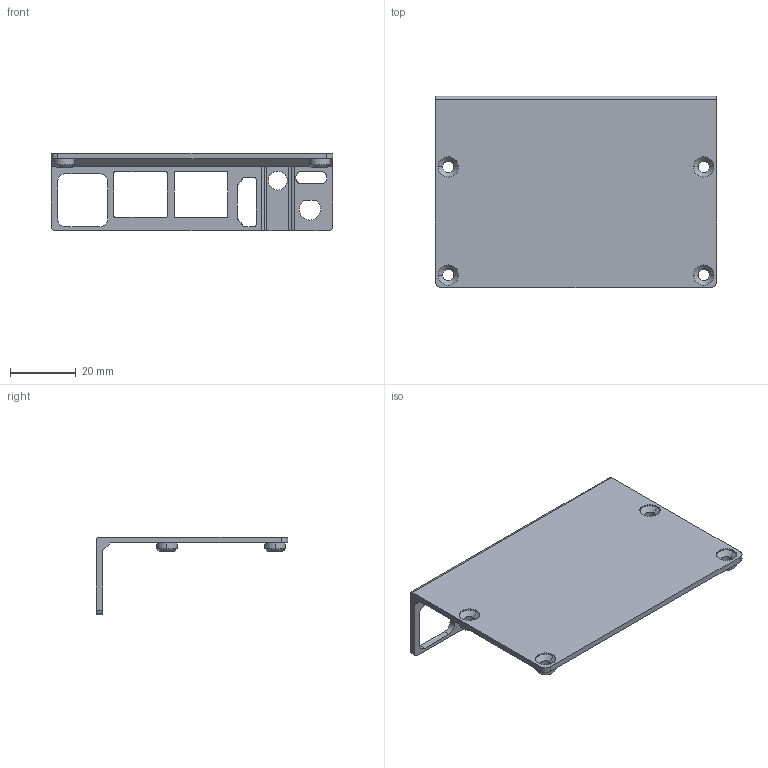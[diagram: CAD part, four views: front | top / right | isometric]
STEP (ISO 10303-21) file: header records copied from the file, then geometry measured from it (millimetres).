
FILE_DESCRIPTION (( 'STEP AP214' ), '1' );
FILE_NAME ('LubanCat 1 N 菁裔.STEP', '2022-11-29T02:35:07', ( '' ), ( '' ), 'SwSTEP 2.0', 'SolidWorks 2021', '' );
FILE_SCHEMA (( 'AUTOMOTIVE_DESIGN' ));
Length unit declared in the file: millimetre
Products named in the file (1): LubanCat 1  N 菁裔
Bounding box: 86 x 58.5 x 23.75 mm (x, y, z)
Volume: 11254.5 mm3; surface area: 13368.5 mm2
Topology: 1 solids, 1 shells, 136 faces, 349 edges, 224 vertices
Faces by surface type: cylinder 66, plane 50, cone 20
Entity records: 4235 total; most frequent: DIRECTION 775, CARTESIAN_POINT 710, ORIENTED_EDGE 698, EDGE_CURVE 349, AXIS2_PLACEMENT_3D 289, VERTEX_POINT 224, LINE 197, VECTOR 197
